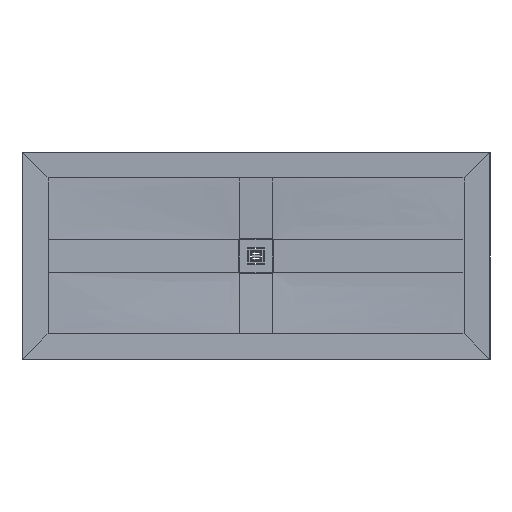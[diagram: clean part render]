
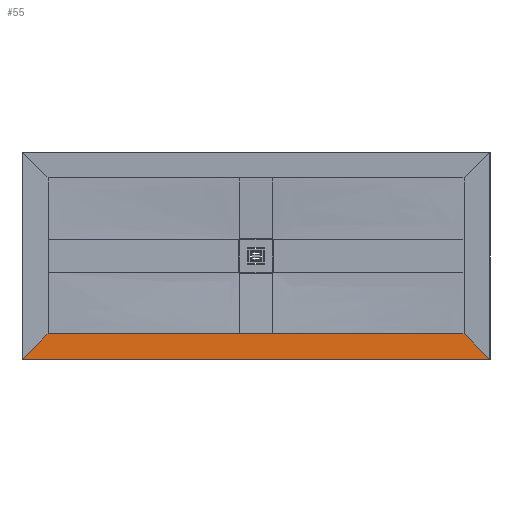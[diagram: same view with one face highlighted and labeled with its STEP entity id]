
A CAD part, top view. The second image highlights one B-rep face of the part: STEP entity #55.
In plain terms, the highlighted planar face has unit normal (0, 0.025, 1).
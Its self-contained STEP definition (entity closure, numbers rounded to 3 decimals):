
#55=ADVANCED_FACE('',(#177),#2038,.T.);
#177=FACE_OUTER_BOUND('',#299,.T.);
#299=EDGE_LOOP('',(#506,#507,#508,#509,#510,#511,#512));
#506=ORIENTED_EDGE('',*,*,#1265,.T.);
#507=ORIENTED_EDGE('',*,*,#1138,.F.);
#508=ORIENTED_EDGE('',*,*,#1139,.T.);
#509=ORIENTED_EDGE('',*,*,#1136,.F.);
#510=ORIENTED_EDGE('',*,*,#1137,.T.);
#511=ORIENTED_EDGE('',*,*,#1135,.F.);
#512=ORIENTED_EDGE('',*,*,#1132,.T.);
#1132=EDGE_CURVE('',#1802,#1801,#1491,.T.);
#1135=EDGE_CURVE('',#1802,#1805,#1493,.T.);
#1136=EDGE_CURVE('',#1806,#1804,#1494,.T.);
#1137=EDGE_CURVE('',#1806,#1805,#1495,.T.);
#1138=EDGE_CURVE('',#1807,#1798,#1496,.T.);
#1139=EDGE_CURVE('',#1807,#1804,#1497,.T.);
#1265=EDGE_CURVE('',#1801,#1798,#1612,.T.);
#1491=B_SPLINE_CURVE_WITH_KNOTS('',5,(#6043,#6044,#6045,#6046,#6047,#6048,
#6049,#6050,#6051),.UNSPECIFIED.,.F.,.F.,(6,3,6),(-721.008,0.,83.379),
 .UNSPECIFIED.);
#1493=B_SPLINE_CURVE_WITH_KNOTS('',1,(#6059,#6060),.UNSPECIFIED.,.F.,.F.,
(2,2),(0.,129.),.UNSPECIFIED.);
#1494=B_SPLINE_CURVE_WITH_KNOTS('',5,(#6061,#6062,#6063,#6064,#6065,#6066),
 .UNSPECIFIED.,.F.,.F.,(6,6),(-116.023,-3.119),
 .UNSPECIFIED.);
#1495=B_SPLINE_CURVE_WITH_KNOTS('',5,(#6067,#6068,#6069,#6070,#6071,#6072,
#6073,#6074,#6075,#6076,#6077,#6078,#6079,#6080,#6081,#6082,#6083,#6084,
#6085,#6086,#6087,#6088,#6089,#6090,#6091,#6092,#6093,#6094,#6095,#6096,
#6097,#6098,#6099,#6100,#6101,#6102,#6103,#6104,#6105,#6106,#6107,#6108),
 .UNSPECIFIED.,.F.,.F.,(6,3,3,3,3,3,3,3,3,3,3,3,3,6),(-735.574,-689.6,
-643.627,-620.64,-597.654,-551.68,
-459.734,-367.787,-275.84,-183.893,-137.92,
-91.947,-45.973,0.),.UNSPECIFIED.);
#1496=B_SPLINE_CURVE_WITH_KNOTS('',1,(#6109,#6110),.UNSPECIFIED.,.F.,.F.,
(2,2),(-1792.418,0.),.UNSPECIFIED.);
#1497=B_SPLINE_CURVE_WITH_KNOTS('',5,(#6111,#6112,#6113,#6114,#6115,#6116,
#6117,#6118,#6119),.UNSPECIFIED.,.F.,.F.,(6,3,6),(7.166,8.498,
9.199),.UNSPECIFIED.);
#1612=B_SPLINE_CURVE_WITH_KNOTS('',5,(#6843,#6844,#6845,#6846,#6847,#6848,
#6849,#6850,#6851,#6852,#6853,#6854,#6855,#6856,#6857,#6858),
 .UNSPECIFIED.,.F.,.F.,(6,5,5,6),(0.,196.523,197.044,197.046),
 .UNSPECIFIED.);
#1798=VERTEX_POINT('',#5650);
#1801=VERTEX_POINT('',#5653);
#1802=VERTEX_POINT('',#5654);
#1804=VERTEX_POINT('',#5656);
#1805=VERTEX_POINT('',#5657);
#1806=VERTEX_POINT('',#5658);
#1807=VERTEX_POINT('',#5659);
#2038=PLANE('',#2116);
#2116=AXIS2_PLACEMENT_3D('',#2739,#2178,$);
#2178=DIRECTION('',(0.,0.025,1.));
#2739=CARTESIAN_POINT('',(-1797.901,-401.197,14.806));
#5650=CARTESIAN_POINT('',(-896.376,-398.623,14.741));
#5653=CARTESIAN_POINT('',(-800.,-302.247,12.306));
#5654=CARTESIAN_POINT('',(-64.5,-302.247,12.306));
#5656=CARTESIAN_POINT('',(896.29,-398.537,14.739));
#5657=CARTESIAN_POINT('',(64.5,-302.247,12.306));
#5658=CARTESIAN_POINT('',(800.,-302.247,12.306));
#5659=CARTESIAN_POINT('',(896.042,-398.623,14.741));
#6043=CARTESIAN_POINT('',(-64.5,-302.247,12.306));
#6044=CARTESIAN_POINT('',(-196.352,-302.247,12.306));
#6045=CARTESIAN_POINT('',(-328.205,-302.247,12.306));
#6046=CARTESIAN_POINT('',(-460.057,-302.247,12.306));
#6047=CARTESIAN_POINT('',(-607.157,-302.247,12.306));
#6048=CARTESIAN_POINT('',(-754.257,-302.247,12.306));
#6049=CARTESIAN_POINT('',(-769.505,-302.247,12.306));
#6050=CARTESIAN_POINT('',(-784.752,-302.247,12.306));
#6051=CARTESIAN_POINT('',(-800.,-302.247,12.306));
#6059=CARTESIAN_POINT('',(-64.5,-302.247,12.306));
#6060=CARTESIAN_POINT('',(64.5,-302.247,12.306));
#6061=CARTESIAN_POINT('',(800.,-302.247,12.306));
#6062=CARTESIAN_POINT('',(819.258,-321.505,12.792));
#6063=CARTESIAN_POINT('',(838.516,-340.763,13.279));
#6064=CARTESIAN_POINT('',(857.774,-360.021,13.765));
#6065=CARTESIAN_POINT('',(877.032,-379.279,14.252));
#6066=CARTESIAN_POINT('',(896.29,-398.537,14.739));
#6067=CARTESIAN_POINT('',(800.,-302.247,12.306));
#6068=CARTESIAN_POINT('',(790.806,-302.247,12.306));
#6069=CARTESIAN_POINT('',(781.613,-302.247,12.306));
#6070=CARTESIAN_POINT('',(772.419,-302.247,12.306));
#6071=CARTESIAN_POINT('',(754.031,-302.247,12.306));
#6072=CARTESIAN_POINT('',(735.644,-302.247,12.306));
#6073=CARTESIAN_POINT('',(726.45,-302.247,12.306));
#6074=CARTESIAN_POINT('',(712.659,-302.247,12.306));
#6075=CARTESIAN_POINT('',(698.869,-302.247,12.306));
#6076=CARTESIAN_POINT('',(694.272,-302.247,12.306));
#6077=CARTESIAN_POINT('',(685.078,-302.247,12.306));
#6078=CARTESIAN_POINT('',(675.884,-302.247,12.306));
#6079=CARTESIAN_POINT('',(671.288,-302.247,12.306));
#6080=CARTESIAN_POINT('',(657.497,-302.247,12.306));
#6081=CARTESIAN_POINT('',(643.706,-302.247,12.306));
#6082=CARTESIAN_POINT('',(634.513,-302.247,12.306));
#6083=CARTESIAN_POINT('',(606.931,-302.247,12.306));
#6084=CARTESIAN_POINT('',(579.35,-302.247,12.306));
#6085=CARTESIAN_POINT('',(560.963,-302.247,12.306));
#6086=CARTESIAN_POINT('',(524.188,-302.247,12.306));
#6087=CARTESIAN_POINT('',(487.413,-302.247,12.306));
#6088=CARTESIAN_POINT('',(469.025,-302.247,12.306));
#6089=CARTESIAN_POINT('',(432.25,-302.247,12.306));
#6090=CARTESIAN_POINT('',(395.475,-302.247,12.306));
#6091=CARTESIAN_POINT('',(377.088,-302.247,12.306));
#6092=CARTESIAN_POINT('',(340.313,-302.247,12.306));
#6093=CARTESIAN_POINT('',(303.538,-302.247,12.306));
#6094=CARTESIAN_POINT('',(285.15,-302.247,12.306));
#6095=CARTESIAN_POINT('',(257.569,-302.247,12.306));
#6096=CARTESIAN_POINT('',(229.988,-302.247,12.306));
#6097=CARTESIAN_POINT('',(220.794,-302.247,12.306));
#6098=CARTESIAN_POINT('',(202.406,-302.247,12.306));
#6099=CARTESIAN_POINT('',(184.019,-302.247,12.306));
#6100=CARTESIAN_POINT('',(174.825,-302.247,12.306));
#6101=CARTESIAN_POINT('',(156.438,-302.247,12.306));
#6102=CARTESIAN_POINT('',(138.05,-302.247,12.306));
#6103=CARTESIAN_POINT('',(128.856,-302.247,12.306));
#6104=CARTESIAN_POINT('',(110.469,-302.247,12.306));
#6105=CARTESIAN_POINT('',(92.081,-302.247,12.306));
#6106=CARTESIAN_POINT('',(82.888,-302.247,12.306));
#6107=CARTESIAN_POINT('',(73.694,-302.247,12.306));
#6108=CARTESIAN_POINT('',(64.5,-302.247,12.306));
#6109=CARTESIAN_POINT('',(896.042,-398.623,14.741));
#6110=CARTESIAN_POINT('',(-896.376,-398.623,14.741));
#6111=CARTESIAN_POINT('',(896.042,-398.623,14.741));
#6112=CARTESIAN_POINT('',(896.077,-398.623,14.741));
#6113=CARTESIAN_POINT('',(896.112,-398.619,14.741));
#6114=CARTESIAN_POINT('',(896.147,-398.612,14.74));
#6115=CARTESIAN_POINT('',(896.198,-398.594,14.74));
#6116=CARTESIAN_POINT('',(896.245,-398.569,14.739));
#6117=CARTESIAN_POINT('',(896.261,-398.559,14.739));
#6118=CARTESIAN_POINT('',(896.276,-398.549,14.739));
#6119=CARTESIAN_POINT('',(896.29,-398.537,14.739));
#6843=CARTESIAN_POINT('',(-800.,-302.247,12.306));
#6844=CARTESIAN_POINT('',(-818.079,-320.326,12.763));
#6845=CARTESIAN_POINT('',(-836.779,-339.026,13.235));
#6846=CARTESIAN_POINT('',(-856.042,-358.289,13.722));
#6847=CARTESIAN_POINT('',(-875.803,-378.05,14.221));
#6848=CARTESIAN_POINT('',(-895.996,-398.243,14.731));
#6849=CARTESIAN_POINT('',(-896.072,-398.319,14.733));
#6850=CARTESIAN_POINT('',(-896.148,-398.395,14.735));
#6851=CARTESIAN_POINT('',(-896.223,-398.47,14.737));
#6852=CARTESIAN_POINT('',(-896.299,-398.546,14.739));
#6853=CARTESIAN_POINT('',(-896.375,-398.622,14.741));
#6854=CARTESIAN_POINT('',(-896.375,-398.622,14.741));
#6855=CARTESIAN_POINT('',(-896.375,-398.622,14.741));
#6856=CARTESIAN_POINT('',(-896.375,-398.623,14.741));
#6857=CARTESIAN_POINT('',(-896.376,-398.623,14.741));
#6858=CARTESIAN_POINT('',(-896.376,-398.623,14.741));
